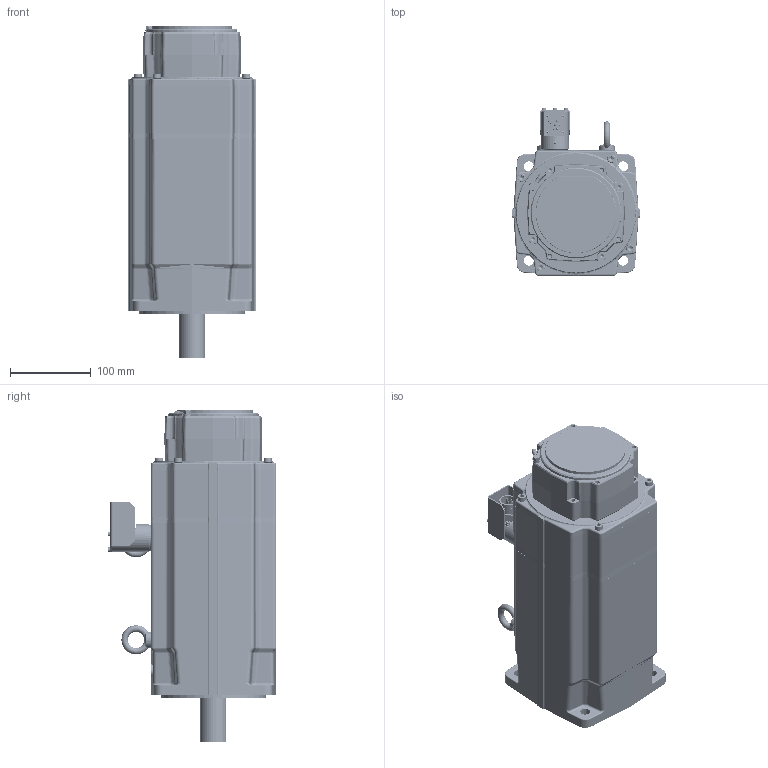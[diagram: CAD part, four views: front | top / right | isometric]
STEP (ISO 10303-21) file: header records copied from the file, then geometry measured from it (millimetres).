
FILE_DESCRIPTION((''),'2;1');
FILE_NAME('EY840EYR7310_ASM','2017-09-29T',('pf73167'),(''),'PRO/ENGINEER BY PARAMETRIC TECHNOLOGY CORPORATION, 2009400','PRO/ENGINEER BY PARAMETRIC TECHNOLOGY CORPORATION, 2009400','');
FILE_SCHEMA(('CONFIG_CONTROL_DESIGN'));
Length unit declared in the file: millimetre
Products named in the file (55): 344458P0008; 5340P0036; 5116P1319; 1150P0512; 301026P0003; 344463P0005; 344232P0003; 344212P0003; 344232P0003_ASM; 220087P0301; 344461R0005_ASM; 5116P1327; 1711P0002; 1640P0001; 344440P0002; 344231P0003; BOB_344465R4000; 344465R4000_ASM; 344466R4000_ASM; SURMOULAGE_344467R4001; 344467R4001_ASM; 5320P0029; 1613P0081; 1613P0082; 1314P0408; 283154_08_P1F101_AF0; 283154_08_P1F501_AF0; 283154P0040_ASM; 1150P0608; 300025P0004; 344455P0001; 344459P0026; 5340P0071; 1150P0625; 344191P0022; 345359P0002; 5340P0124; 5340P0125; 1150P0204; 345359P0001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
Assembly tree (106 placements, depth 5):
  EY840EYR7310_ASM
    344458P0008
    5340P0036  x3
    5116P1319
    1150P0512  x3
    301026P0003
    344461R0005_ASM
      344463P0005
      344232P0003_ASM
        344232P0003
        344212P0003  x2
      220087P0301  x20
    5116P1327
    1711P0002
    1640P0001  x3
    344467R4001_ASM
      344440P0002
      344466R4000_ASM
        344465R4000_ASM
          344231P0003
          BOB_344465R4000
      SURMOULAGE_344467R4001
    5320P0029
    1613P0081  x2
    1613P0082  x2
    1314P0408
    283154P0040_ASM
      283154_08_P1F101_AF0
      283154_08_P1F501_AF0
    1150P0608  x4
    300025P0004
    344455P0001
    344459P0026
    5340P0071
    1150P0625  x4
    344191P0022
    345359R1010_800_ASM
      345359P0002
      5340P0124
      5340P0125
      1150P0204  x8
      345359P0001
      1170P0042  x4
      220132P1010_ASM
        220132P1010_0001
        220132P1010_0002
        220132P0111  x4
        220132P0120  x3
      345359P0003
      1150P0305  x3
    1190P0001  x2
    6942P0012
    1642P0105
    6620P0014
    1145P0508
Bounding box: 157 x 207.7 x 409.9 mm (x, y, z)
Volume: 4883405.5 mm3; surface area: 1394474.8 mm2
Topology: 104 solids, 133 shells, 5815 faces, 13900 edges, 8473 vertices
Faces by surface type: cylinder 2063, plane 1797, bspline 727, cone 648, torus 504, sphere 66, extrusion 10
Entity records: 160534 total; most frequent: CARTESIAN_POINT 55653, ORIENTED_EDGE 21874, DIRECTION 21584, EDGE_CURVE 10937, AXIS2_PLACEMENT_3D 8371, VERTEX_POINT 6827, EDGE_LOOP 4994, VECTOR 4842
